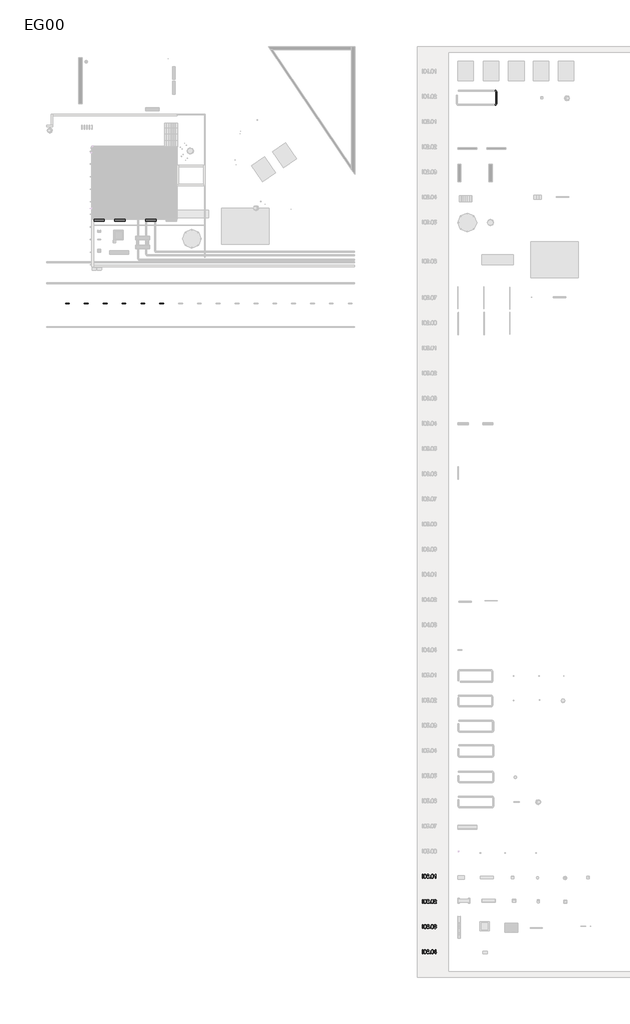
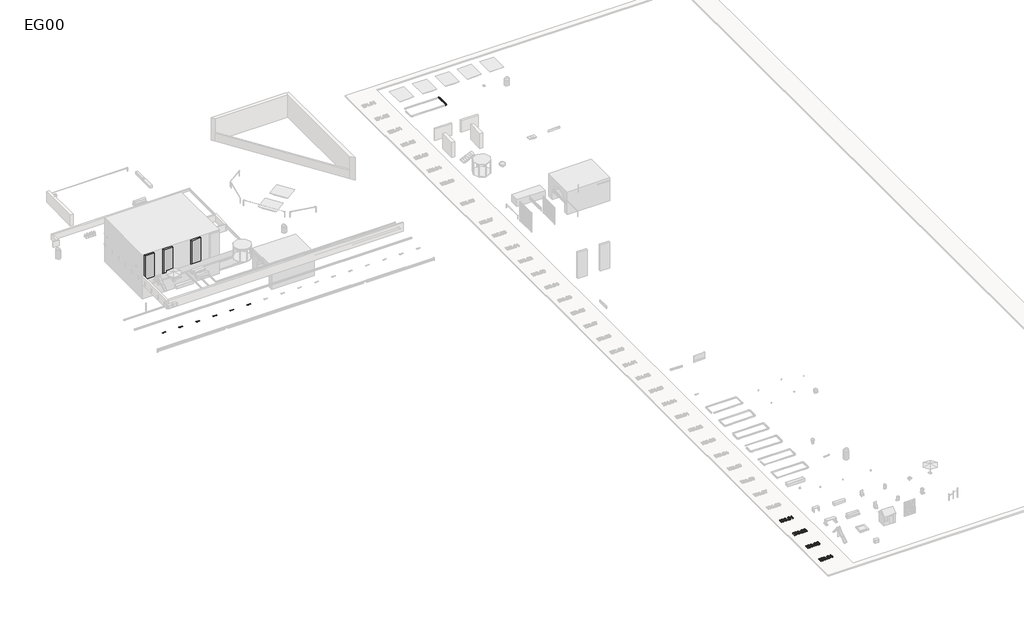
# One storey, part 4 of 11: 10 proxies, 3 geographic elements, 2 pipe fittings, 1 pipe segment.
"""IFC4 building model written with IfcOpenShell, lengths in millimetres."""

from ifc_helpers import new_model, si_unit, point, frame, frame_2d, origin, origin_with_axes, place, context, project, spatial, polyline, circle_curve, trimmed, segment, composite_curve, outline, extrude, transform, mapped, element, save
from components import entourage_9fdb578f, geographic_element_9d9cddf6, bogen_61cc4290

model = new_model("IFC4")

# Units and contexts
model_context = context("Model", 3, world=origin())
ifc_project = project(units=[si_unit("LENGTHUNIT", "METRE", prefix="MILLI")], contexts=[model_context])

# Site, building, storey
site = spatial("IfcSite", under=ifc_project)
building = spatial("IfcBuilding", under=site)
storey = spatial("IfcBuildingStorey", under=building, Name="EG00", Elevation=0.0)

# Proxies
placement = place(None, origin())
entourage_shape = entourage_9fdb578f(model_context)
element("IfcBuildingElementProxy", 1, Name="Bodenmarkierung : Belagsmarkierung", ObjectType="Bodenmarkierung : Belagsmarkierung", at=placement, inside=storey, context=model_context, shape_type="MappedRepresentation", body=[
    mapped(entourage_shape, transform((-15408.7537228, -30730.6172052, -9.0), x_axis=(1.0, 0.0, 0.0), y_axis=(0.0, 1.0, 0.0), z_axis=(0.0, 0.0, 1.0))),
])
element("IfcBuildingElementProxy", 2, Name="Bodenmarkierung : Belagsmarkierung", ObjectType="Bodenmarkierung : Belagsmarkierung", at=placement, inside=storey, context=model_context, shape_type="MappedRepresentation", body=[
    mapped(entourage_shape, transform((-12408.7537228, -30730.6172052, -9.0), x_axis=(1.0, 0.0, 0.0), y_axis=(0.0, 1.0, 0.0), z_axis=(0.0, 0.0, 1.0))),
])
element("IfcBuildingElementProxy", 3, Name="Bodenmarkierung : Belagsmarkierung", ObjectType="Bodenmarkierung : Belagsmarkierung", at=placement, inside=storey, context=model_context, shape_type="MappedRepresentation", body=[
    mapped(entourage_shape, transform((-9408.7537228, -30730.6172052, -9.0), x_axis=(1.0, 0.0, 0.0), y_axis=(0.0, 1.0, 0.0), z_axis=(0.0, 0.0, 1.0))),
])
element("IfcBuildingElementProxy", 4, Name="Bodenmarkierung : Belagsmarkierung", ObjectType="Bodenmarkierung : Belagsmarkierung", at=placement, inside=storey, context=model_context, shape_type="MappedRepresentation", body=[
    mapped(entourage_shape, transform((-6408.7537228, -30730.6172052, -9.0), x_axis=(1.0, 0.0, 0.0), y_axis=(0.0, 1.0, 0.0), z_axis=(0.0, 0.0, 1.0))),
])
element("IfcBuildingElementProxy", 5, Name="Bodenmarkierung : Belagsmarkierung", ObjectType="Bodenmarkierung : Belagsmarkierung", at=placement, inside=storey, context=model_context, shape_type="MappedRepresentation", body=[
    mapped(entourage_shape, transform((-3408.7537228, -30730.6172052, -9.0), x_axis=(1.0, 0.0, 0.0), y_axis=(0.0, 1.0, 0.0), z_axis=(0.0, 0.0, 1.0))),
])
element("IfcBuildingElementProxy", 6, Name="Bodenmarkierung : Belagsmarkierung", ObjectType="Bodenmarkierung : Belagsmarkierung", at=placement, inside=storey, context=model_context, shape_type="MappedRepresentation", body=[
    mapped(entourage_shape, transform((-408.7537228, -30730.6172052, -9.0), x_axis=(1.0, 0.0, 0.0), y_axis=(0.0, 1.0, 0.0), z_axis=(0.0, 0.0, 1.0))),
])
element("IfcBuildingElementProxy", 7, Name="600mm Arial", ObjectType="600mm Arial", at=placement, inside=storey, context=model_context, shape_type="SweptSolid", body=[
    extrude(outline(polyline([(41098.4530284, -122070.0529019), (41098.4530284, -121467.315041), (41173.795261, -121467.315041), (41173.795261, -122070.0529019), (41098.4530284, -122070.0529019)])), origin_with_axes(), (0.0, 0.0, 1.0), 150.0),
    extrude(outline(polyline([(41296.226389, -121773.5400137), (41301.763013, -121677.0629605), (41308.6837931, -121636.1498841), (41318.3728851, -121600.1204412), (41330.7889025, -121568.6803262), (41345.8904584, -121541.5352335), (41363.6775528, -121518.6851631), (41384.1501859, -121500.1301149), (41407.3773353, -121485.7735201), (41433.4279791, -121475.5188095), (41462.3021172, -121469.3659831), (41493.9997496, -121467.315041), (41540.4264574, -121472.1710833), (41581.9971229, -121486.7392103), (41616.7619714, -121510.4492049), (41642.7712285, -121542.73085), (41662.416127, -121583.308234), (41678.0879, -121631.9054456), (41688.3518077, -121693.6176503), (41691.7731102, -121773.5400137), (41686.2916685, -121869.465244), (41679.4398663, -121910.2403646), (41669.8473433, -121946.2238223), (41657.527895, -121977.6777329), (41642.495317, -122004.8642123), (41624.7496092, -122027.7832606), (41604.2907718, -122046.4348778), (41581.0360312, -122060.8880417), (41554.9026139, -122071.2117301), (41525.8905201, -122077.4059432), (41493.9997496, -122079.4706809), (41452.5026606, -122075.8838315), (41415.7144611, -122065.1232831), (41383.6351511, -122047.1890359), (41356.2647306, -122022.0810897), (41329.9979562, -121976.6936485), (41311.2359744, -121920.1409888), (41299.9787854, -121852.4231106), (41296.226389, -121773.5400137)]), holes=[polyline([(41371.5686216, -121773.3928609), (41373.7759136, -121838.8896517), (41380.3977895, -121891.9060457), (41391.4342494, -121932.442043), (41406.8852932, -121960.4976437), (41425.5736985, -121979.5861207), (41446.3222431, -121993.2207472), (41469.1309268, -122001.401523), (41493.9997496, -122004.1284483), (41518.8685725, -122001.392326), (41541.6772562, -121993.183959), (41562.4258007, -121979.5033473), (41581.1142061, -121960.3504909), (41596.5652499, -121932.248905), (41607.6017097, -121891.7221047), (41614.2235857, -121838.77009), (41616.4308776, -121773.3928609), (41614.297162, -121709.6297141), (41607.8960153, -121657.5468207), (41597.2274375, -121617.1441805), (41582.2914285, -121588.4217938), (41563.9157228, -121568.3998162), (41542.928055, -121554.0984036), (41519.328425, -121545.5175561), (41493.1168328, -121542.6572736), (41468.3767687, -121545.1772652), (41445.9543611, -121552.7372402), (41425.84961, -121565.3371986), (41408.0625156, -121582.9771402), (41392.096437, -121614.2471098), (41380.6920951, -121656.4063865), (41373.84949, -121709.4549702), (41371.5686216, -121773.3928609)])]), origin_with_axes(), (0.0, 0.0, 1.0), 150.0),
    extrude(outline(polyline([(42143.8265059, -121627.4172853), (42068.4842733, -121636.8350643), (42056.3441675, -121599.4950418), (42039.9366305, -121574.0008196), (42023.7406256, -121560.2880182), (42005.7603931, -121550.4931601), (41985.9959329, -121544.6162452), (41964.4472451, -121542.6572736), (41929.4248791, -121547.2190103), (41896.4626524, -121560.9042205), (41868.1541328, -121589.7277749), (41845.0327494, -121629.403848), (41835.9966479, -121654.7095308), (41829.4161587, -121685.5242464), (41823.6220173, -121763.6807763), (41853.8435232, -121728.419287), (41890.0615056, -121703.5688583), (41930.2526136, -121688.8351844), (41972.3934962, -121683.9239597), (42008.5930845, -121687.2808829), (42041.9967696, -121697.3516525), (42072.6045516, -121714.1362686), (42100.4164305, -121737.634731), (42123.5286168, -121766.4490883), (42140.0373214, -121799.1813888), (42149.9425441, -121835.8316326), (42153.244285, -121876.3998196), (42151.6899836, -121903.8668091), (42147.0270793, -121930.3497142), (42139.2555721, -121955.848535), (42128.3754621, -121980.3632714), (42114.7730253, -122002.9788171), (42098.8345379, -122022.7800655), (42080.5599998, -122039.7670166), (42059.949411, -122053.9396705), (42037.44423, -122065.1094875), (42013.485915, -122073.0879283), (41988.0744662, -122077.8749928), (41961.2098835, -122079.4706809), (41916.2960904, -122075.240038), (41875.7325019, -122062.5481092), (41839.519118, -122041.3948944), (41807.6559387, -122011.7803938), (41781.6788713, -121972.4538085), (41763.1238232, -121922.1643398), (41751.9907943, -121860.9119876), (41748.2797847, -121788.6967519), (41752.400063, -121707.7351219), (41764.7608981, -121638.6376861), (41785.3622898, -121581.4044447), (41798.7531944, -121557.2368969), (41814.2042382, -121536.0353977), (41845.4650108, -121505.9702416), (41881.7105843, -121484.4951301), (41922.940959, -121471.6100633), (41969.1561346, -121467.315041), (42003.8566038, -121469.9729884), (42035.2645291, -121477.9468306), (42063.3799106, -121491.2365677), (42088.2027482, -121509.8421996), (42109.0616574, -121533.1383269), (42125.2852534, -121560.4995503), (42136.8735362, -121591.9258698), (42143.8265059, -121627.4172853)]), holes=[polyline([(41823.6220173, -121875.2225972), (41827.9814189, -121908.6078883), (41841.0596239, -121940.4848632), (41861.36671, -121967.8920718), (41887.4127553, -121987.8680641), (41918.8482718, -122000.0633523), (41955.3237716, -122004.1284483), (41981.5123711, -122002.0223239), (42005.0430232, -121995.7039506), (42025.9157279, -121985.1733285), (42044.1304852, -121970.4304576), (42058.9055458, -121952.073146), (42069.4591606, -121930.6992021), (42075.7913294, -121906.3086258), (42077.9020524, -121878.9014172), (42075.8189206, -121852.5656648), (42069.5695252, -121829.1821655), (42059.1538662, -121808.7509192), (42044.5719436, -121791.2719259), (42026.302004, -121777.2694175), (42004.822294, -121767.2676257), (41980.1328136, -121761.2665507), (41952.2335628, -121759.2661923), (41926.3944512, -121761.2665507), (41902.5878876, -121767.2676257), (41880.813872, -121777.2694175), (41861.0724044, -121791.2719259), (41844.6878601, -121808.520993), (41832.9846141, -121828.2624605), (41825.9626665, -121850.4963286), (41823.6220173, -121875.2225972)])]), origin_with_axes(), (0.0, 0.0, 1.0), 150.0),
    extrude(outline(polyline([(42256.8398548, -122070.0529019), (42256.8398548, -121994.7106692), (42332.1820874, -121994.7106692), (42332.1820874, -122070.0529019), (42256.8398548, -122070.0529019)])), origin_with_axes(), (0.0, 0.0, 1.0), 150.0),
    extrude(outline(polyline([(42454.6132154, -121773.5400137), (42460.1498395, -121677.0629605), (42467.0706195, -121636.1498841), (42476.7597115, -121600.1204412), (42489.1757289, -121568.6803262), (42504.2772848, -121541.5352335), (42522.0643792, -121518.6851631), (42542.5370123, -121500.1301149), (42565.7641618, -121485.7735201), (42591.8148055, -121475.5188095), (42620.6889436, -121469.3659831), (42652.386576, -121467.315041), (42698.8132838, -121472.1710833), (42740.3839493, -121486.7392103), (42775.1487978, -121510.4492049), (42801.1580549, -121542.73085), (42820.8029534, -121583.308234), (42836.4747264, -121631.9054456), (42846.7386341, -121693.6176503), (42850.1599366, -121773.5400137), (42844.6784949, -121869.465244), (42837.8266928, -121910.2403646), (42828.2341697, -121946.2238223), (42815.9147214, -121977.6777329), (42800.8821434, -122004.8642123), (42783.1364357, -122027.7832606), (42762.6775982, -122046.4348778), (42739.4228576, -122060.8880417), (42713.2894403, -122071.2117301), (42684.2773465, -122077.4059432), (42652.386576, -122079.4706809), (42610.889487, -122075.8838315), (42574.1012875, -122065.1232831), (42542.0219775, -122047.1890359), (42514.651557, -122022.0810897), (42488.3847826, -121976.6936485), (42469.6228008, -121920.1409888), (42458.3656118, -121852.4231106), (42454.6132154, -121773.5400137)]), holes=[polyline([(42529.955448, -121773.3928609), (42532.16274, -121838.8896517), (42538.7846159, -121891.9060457), (42549.8210758, -121932.442043), (42565.2721196, -121960.4976437), (42583.9605249, -121979.5861207), (42604.7090695, -121993.2207472), (42627.5177532, -122001.401523), (42652.386576, -122004.1284483), (42677.2553989, -122001.392326), (42700.0640826, -121993.183959), (42720.8126271, -121979.5033473), (42739.5010325, -121960.3504909), (42754.9520763, -121932.248905), (42765.9885362, -121891.7221047), (42772.6104121, -121838.77009), (42774.817704, -121773.3928609), (42772.6839885, -121709.6297141), (42766.2828417, -121657.5468207), (42755.6142639, -121617.1441805), (42740.6782549, -121588.4217938), (42722.3025492, -121568.3998162), (42701.3148814, -121554.0984036), (42677.7152514, -121545.5175561), (42651.5036593, -121542.6572736), (42626.7635951, -121545.1772652), (42604.3411875, -121552.7372402), (42584.2364364, -121565.3371986), (42566.449342, -121582.9771402), (42550.4832634, -121614.2471098), (42539.0789215, -121656.4063865), (42532.2363164, -121709.4549702), (42529.955448, -121773.3928609)])]), origin_with_axes(), (0.0, 0.0, 1.0), 150.0),
    extrude(outline(polyline([(43198.6177625, -122070.0529019), (43123.2755299, -122070.0529019), (43123.2755299, -121600.3411704), (43091.8216193, -121625.7802104), (43051.9064228, -121651.1824622), (43010.0046636, -121673.3841406), (42972.5910646, -121689.2214605), (42972.5910646, -121617.9995062), (43031.7648836, -121585.8098316), (43083.0292396, -121547.5133159), (43123.4410768, -121506.788779), (43150.0573391, -121467.315041), (43198.6177625, -121467.315041), (43198.6177625, -122070.0529019)])), origin_with_axes(), (0.0, 0.0, 1.0), 150.0),
])
element("IfcBuildingElementProxy", 8, Name="600mm Arial", ObjectType="600mm Arial", at=placement, inside=storey, context=model_context, shape_type="SweptSolid", body=[
    extrude(outline(polyline([(41098.4530284, -126070.0529019), (41098.4530284, -125467.315041), (41173.795261, -125467.315041), (41173.795261, -126070.0529019), (41098.4530284, -126070.0529019)])), origin_with_axes(), (0.0, 0.0, 1.0), 150.0),
    extrude(outline(polyline([(41296.226389, -125773.5400137), (41301.763013, -125677.0629605), (41308.6837931, -125636.1498841), (41318.3728851, -125600.1204412), (41330.7889025, -125568.6803262), (41345.8904584, -125541.5352335), (41363.6775528, -125518.6851631), (41384.1501859, -125500.1301149), (41407.3773353, -125485.7735201), (41433.4279791, -125475.5188095), (41462.3021172, -125469.3659831), (41493.9997496, -125467.315041), (41540.4264574, -125472.1710833), (41581.9971229, -125486.7392103), (41616.7619714, -125510.4492049), (41642.7712285, -125542.73085), (41662.416127, -125583.308234), (41678.0879, -125631.9054456), (41688.3518077, -125693.6176503), (41691.7731102, -125773.5400137), (41686.2916685, -125869.465244), (41679.4398663, -125910.2403646), (41669.8473433, -125946.2238223), (41657.527895, -125977.6777329), (41642.495317, -126004.8642123), (41624.7496092, -126027.7832606), (41604.2907718, -126046.4348778), (41581.0360312, -126060.8880417), (41554.9026139, -126071.2117301), (41525.8905201, -126077.4059432), (41493.9997496, -126079.4706809), (41452.5026606, -126075.8838315), (41415.7144611, -126065.1232831), (41383.6351511, -126047.1890359), (41356.2647306, -126022.0810897), (41329.9979562, -125976.6936485), (41311.2359744, -125920.1409888), (41299.9787854, -125852.4231106), (41296.226389, -125773.5400137)]), holes=[polyline([(41371.5686216, -125773.3928609), (41373.7759136, -125838.8896517), (41380.3977895, -125891.9060457), (41391.4342494, -125932.442043), (41406.8852932, -125960.4976437), (41425.5736985, -125979.5861207), (41446.3222431, -125993.2207472), (41469.1309268, -126001.401523), (41493.9997496, -126004.1284483), (41518.8685725, -126001.392326), (41541.6772562, -125993.183959), (41562.4258007, -125979.5033473), (41581.1142061, -125960.3504909), (41596.5652499, -125932.248905), (41607.6017097, -125891.7221047), (41614.2235857, -125838.77009), (41616.4308776, -125773.3928609), (41614.297162, -125709.6297141), (41607.8960153, -125657.5468207), (41597.2274375, -125617.1441805), (41582.2914285, -125588.4217938), (41563.9157228, -125568.3998162), (41542.928055, -125554.0984036), (41519.328425, -125545.5175561), (41493.1168328, -125542.6572736), (41468.3767687, -125545.1772652), (41445.9543611, -125552.7372402), (41425.84961, -125565.3371986), (41408.0625156, -125582.9771402), (41392.096437, -125614.2471098), (41380.6920951, -125656.4063865), (41373.84949, -125709.4549702), (41371.5686216, -125773.3928609)])]), origin_with_axes(), (0.0, 0.0, 1.0), 150.0),
    extrude(outline(polyline([(42143.8265059, -125627.4172853), (42068.4842733, -125636.8350643), (42056.3441675, -125599.4950418), (42039.9366305, -125574.0008196), (42023.7406256, -125560.2880182), (42005.7603931, -125550.4931601), (41985.9959329, -125544.6162452), (41964.4472451, -125542.6572736), (41929.4248791, -125547.2190103), (41896.4626524, -125560.9042205), (41868.1541328, -125589.7277749), (41845.0327494, -125629.403848), (41835.9966479, -125654.7095308), (41829.4161587, -125685.5242464), (41823.6220173, -125763.6807763), (41853.8435232, -125728.419287), (41890.0615056, -125703.5688583), (41930.2526136, -125688.8351844), (41972.3934962, -125683.9239597), (42008.5930845, -125687.2808829), (42041.9967696, -125697.3516525), (42072.6045516, -125714.1362686), (42100.4164305, -125737.634731), (42123.5286168, -125766.4490883), (42140.0373214, -125799.1813888), (42149.9425441, -125835.8316326), (42153.244285, -125876.3998196), (42151.6899836, -125903.8668091), (42147.0270793, -125930.3497142), (42139.2555721, -125955.848535), (42128.3754621, -125980.3632714), (42114.7730253, -126002.9788171), (42098.8345379, -126022.7800655), (42080.5599998, -126039.7670166), (42059.949411, -126053.9396705), (42037.44423, -126065.1094875), (42013.485915, -126073.0879283), (41988.0744662, -126077.8749928), (41961.2098835, -126079.4706809), (41916.2960904, -126075.240038), (41875.7325019, -126062.5481092), (41839.519118, -126041.3948944), (41807.6559387, -126011.7803938), (41781.6788713, -125972.4538085), (41763.1238232, -125922.1643398), (41751.9907943, -125860.9119876), (41748.2797847, -125788.6967519), (41752.400063, -125707.7351219), (41764.7608981, -125638.6376861), (41785.3622898, -125581.4044447), (41798.7531944, -125557.2368969), (41814.2042382, -125536.0353977), (41845.4650108, -125505.9702416), (41881.7105843, -125484.4951301), (41922.940959, -125471.6100633), (41969.1561346, -125467.315041), (42003.8566038, -125469.9729884), (42035.2645291, -125477.9468306), (42063.3799106, -125491.2365677), (42088.2027482, -125509.8421996), (42109.0616574, -125533.1383269), (42125.2852534, -125560.4995503), (42136.8735362, -125591.9258698), (42143.8265059, -125627.4172853)]), holes=[polyline([(41823.6220173, -125875.2225972), (41827.9814189, -125908.6078883), (41841.0596239, -125940.4848632), (41861.36671, -125967.8920718), (41887.4127553, -125987.8680641), (41918.8482718, -126000.0633523), (41955.3237716, -126004.1284483), (41981.5123711, -126002.0223239), (42005.0430232, -125995.7039506), (42025.9157279, -125985.1733285), (42044.1304852, -125970.4304576), (42058.9055458, -125952.073146), (42069.4591606, -125930.6992021), (42075.7913294, -125906.3086258), (42077.9020524, -125878.9014172), (42075.8189206, -125852.5656648), (42069.5695252, -125829.1821655), (42059.1538662, -125808.7509192), (42044.5719436, -125791.2719259), (42026.302004, -125777.2694175), (42004.822294, -125767.2676257), (41980.1328136, -125761.2665507), (41952.2335628, -125759.2661923), (41926.3944512, -125761.2665507), (41902.5878876, -125767.2676257), (41880.813872, -125777.2694175), (41861.0724044, -125791.2719259), (41844.6878601, -125808.520993), (41832.9846141, -125828.2624605), (41825.9626665, -125850.4963286), (41823.6220173, -125875.2225972)])]), origin_with_axes(), (0.0, 0.0, 1.0), 150.0),
    extrude(outline(polyline([(42256.8398548, -126070.0529019), (42256.8398548, -125994.7106692), (42332.1820874, -125994.7106692), (42332.1820874, -126070.0529019), (42256.8398548, -126070.0529019)])), origin_with_axes(), (0.0, 0.0, 1.0), 150.0),
    extrude(outline(polyline([(42454.6132154, -125773.5400137), (42460.1498395, -125677.0629605), (42467.0706195, -125636.1498841), (42476.7597115, -125600.1204412), (42489.1757289, -125568.6803262), (42504.2772848, -125541.5352335), (42522.0643792, -125518.6851631), (42542.5370123, -125500.1301149), (42565.7641618, -125485.7735201), (42591.8148055, -125475.5188095), (42620.6889436, -125469.3659831), (42652.386576, -125467.315041), (42698.8132838, -125472.1710833), (42740.3839493, -125486.7392103), (42775.1487978, -125510.4492049), (42801.1580549, -125542.73085), (42820.8029534, -125583.308234), (42836.4747264, -125631.9054456), (42846.7386341, -125693.6176503), (42850.1599366, -125773.5400137), (42844.6784949, -125869.465244), (42837.8266928, -125910.2403646), (42828.2341697, -125946.2238223), (42815.9147214, -125977.6777329), (42800.8821434, -126004.8642123), (42783.1364357, -126027.7832606), (42762.6775982, -126046.4348778), (42739.4228576, -126060.8880417), (42713.2894403, -126071.2117301), (42684.2773465, -126077.4059432), (42652.386576, -126079.4706809), (42610.889487, -126075.8838315), (42574.1012875, -126065.1232831), (42542.0219775, -126047.1890359), (42514.651557, -126022.0810897), (42488.3847826, -125976.6936485), (42469.6228008, -125920.1409888), (42458.3656118, -125852.4231106), (42454.6132154, -125773.5400137)]), holes=[polyline([(42529.955448, -125773.3928609), (42532.16274, -125838.8896517), (42538.7846159, -125891.9060457), (42549.8210758, -125932.442043), (42565.2721196, -125960.4976437), (42583.9605249, -125979.5861207), (42604.7090695, -125993.2207472), (42627.5177532, -126001.401523), (42652.386576, -126004.1284483), (42677.2553989, -126001.392326), (42700.0640826, -125993.183959), (42720.8126271, -125979.5033473), (42739.5010325, -125960.3504909), (42754.9520763, -125932.248905), (42765.9885362, -125891.7221047), (42772.6104121, -125838.77009), (42774.817704, -125773.3928609), (42772.6839885, -125709.6297141), (42766.2828417, -125657.5468207), (42755.6142639, -125617.1441805), (42740.6782549, -125588.4217938), (42722.3025492, -125568.3998162), (42701.3148814, -125554.0984036), (42677.7152514, -125545.5175561), (42651.5036593, -125542.6572736), (42626.7635951, -125545.1772652), (42604.3411875, -125552.7372402), (42584.2364364, -125565.3371986), (42566.449342, -125582.9771402), (42550.4832634, -125614.2471098), (42539.0789215, -125656.4063865), (42532.2363164, -125709.4549702), (42529.955448, -125773.3928609)])]), origin_with_axes(), (0.0, 0.0, 1.0), 150.0),
    extrude(outline(polyline([(43302.2133323, -125994.7106692), (43302.2133323, -126070.0529019), (42906.6666111, -126070.0529019), (42908.3220801, -126043.52861), (42914.760015, -126018.1079641), (42933.3380558, -125977.512186), (42960.5245352, -125938.1304184), (42999.8511205, -125896.9092408), (43054.8494788, -125850.7952327), (43136.1513997, -125778.5799971), (43184.9325523, -125725.273896), (43199.1603884, -125703.4952819), (43209.3231285, -125682.0109733), (43215.4207726, -125660.8209704), (43217.4533206, -125639.9252731), (43215.5357357, -125620.266579), (43209.782981, -125602.1989745), (43200.1950565, -125585.7224596), (43186.7719622, -125570.8370344), (43170.2586592, -125558.508389), (43151.4001084, -125549.7022138), (43130.1963099, -125544.4185086), (43106.6472637, -125542.6572736), (43081.8382216, -125544.3771219), (43059.6503388, -125549.5366669), (43040.0836152, -125558.1359085), (43023.1380508, -125570.1748468), (43009.4298479, -125585.2488116), (42999.575209, -125602.9531326), (42993.5741339, -125623.2878099), (42991.4266228, -125646.2528434), (42916.0843902, -125636.8350643), (42922.5637118, -125597.9407404), (42934.3497312, -125563.9576411), (42951.4424484, -125534.8857664), (42973.8418634, -125510.7251164), (43001.0329414, -125491.7332084), (43032.5006476, -125478.1675598), (43068.2449819, -125470.0281707), (43108.2659445, -125467.315041), (43148.645592, -125470.3316733), (43184.5830644, -125479.3815704), (43216.0783617, -125494.4647322), (43243.1314839, -125515.5811587), (43264.8595142, -125541.1673515), (43280.3795359, -125569.659812), (43289.6915489, -125601.0585403), (43292.7955532, -125635.3635364), (43289.4478271, -125671.3975778), (43279.4046486, -125706.8062198), (43261.580766, -125742.8218672), (43234.8909272, -125780.6769245), (43192.3453745, -125825.8712276), (43126.9543498, -125883.9046123), (43040.2813518, -125956.3773654), (43006.2890554, -125994.7106692), (43302.2133323, -125994.7106692)])), origin_with_axes(), (0.0, 0.0, 1.0), 150.0),
])
element("IfcBuildingElementProxy", 9, Name="600mm Arial", ObjectType="600mm Arial", at=placement, inside=storey, context=model_context, shape_type="SweptSolid", body=[
    extrude(outline(polyline([(41098.4530284, -130070.0529019), (41098.4530284, -129467.315041), (41173.795261, -129467.315041), (41173.795261, -130070.0529019), (41098.4530284, -130070.0529019)])), origin_with_axes(), (0.0, 0.0, 1.0), 150.0),
    extrude(outline(polyline([(41296.226389, -129773.5400137), (41301.763013, -129677.0629605), (41308.6837931, -129636.1498841), (41318.3728851, -129600.1204412), (41330.7889025, -129568.6803262), (41345.8904584, -129541.5352335), (41363.6775528, -129518.6851631), (41384.1501859, -129500.1301149), (41407.3773353, -129485.7735201), (41433.4279791, -129475.5188095), (41462.3021172, -129469.3659831), (41493.9997496, -129467.315041), (41540.4264574, -129472.1710833), (41581.9971229, -129486.7392103), (41616.7619714, -129510.4492049), (41642.7712285, -129542.73085), (41662.416127, -129583.308234), (41678.0879, -129631.9054456), (41688.3518077, -129693.6176503), (41691.7731102, -129773.5400137), (41686.2916685, -129869.465244), (41679.4398663, -129910.2403646), (41669.8473433, -129946.2238223), (41657.527895, -129977.6777329), (41642.495317, -130004.8642123), (41624.7496092, -130027.7832606), (41604.2907718, -130046.4348778), (41581.0360312, -130060.8880417), (41554.9026139, -130071.2117301), (41525.8905201, -130077.4059432), (41493.9997496, -130079.4706809), (41452.5026606, -130075.8838315), (41415.7144611, -130065.1232831), (41383.6351511, -130047.1890359), (41356.2647306, -130022.0810897), (41329.9979562, -129976.6936485), (41311.2359744, -129920.1409888), (41299.9787854, -129852.4231106), (41296.226389, -129773.5400137)]), holes=[polyline([(41371.5686216, -129773.3928609), (41373.7759136, -129838.8896517), (41380.3977895, -129891.9060457), (41391.4342494, -129932.442043), (41406.8852932, -129960.4976437), (41425.5736985, -129979.5861207), (41446.3222431, -129993.2207472), (41469.1309268, -130001.401523), (41493.9997496, -130004.1284483), (41518.8685725, -130001.392326), (41541.6772562, -129993.183959), (41562.4258007, -129979.5033473), (41581.1142061, -129960.3504909), (41596.5652499, -129932.248905), (41607.6017097, -129891.7221047), (41614.2235857, -129838.77009), (41616.4308776, -129773.3928609), (41614.297162, -129709.6297141), (41607.8960153, -129657.5468207), (41597.2274375, -129617.1441805), (41582.2914285, -129588.4217938), (41563.9157228, -129568.3998162), (41542.928055, -129554.0984036), (41519.328425, -129545.5175561), (41493.1168328, -129542.6572736), (41468.3767687, -129545.1772652), (41445.9543611, -129552.7372402), (41425.84961, -129565.3371986), (41408.0625156, -129582.9771402), (41392.096437, -129614.2471098), (41380.6920951, -129656.4063865), (41373.84949, -129709.4549702), (41371.5686216, -129773.3928609)])]), origin_with_axes(), (0.0, 0.0, 1.0), 150.0),
    extrude(outline(polyline([(42143.8265059, -129627.4172853), (42068.4842733, -129636.8350643), (42056.3441675, -129599.4950418), (42039.9366305, -129574.0008196), (42023.7406256, -129560.2880182), (42005.7603931, -129550.4931601), (41985.9959329, -129544.6162452), (41964.4472451, -129542.6572736), (41929.4248791, -129547.2190103), (41896.4626524, -129560.9042205), (41868.1541328, -129589.7277749), (41845.0327494, -129629.403848), (41835.9966479, -129654.7095308), (41829.4161587, -129685.5242464), (41823.6220173, -129763.6807763), (41853.8435232, -129728.419287), (41890.0615056, -129703.5688583), (41930.2526136, -129688.8351844), (41972.3934962, -129683.9239597), (42008.5930845, -129687.2808829), (42041.9967696, -129697.3516525), (42072.6045516, -129714.1362686), (42100.4164305, -129737.634731), (42123.5286168, -129766.4490883), (42140.0373214, -129799.1813888), (42149.9425441, -129835.8316326), (42153.244285, -129876.3998196), (42151.6899836, -129903.8668091), (42147.0270793, -129930.3497142), (42139.2555721, -129955.848535), (42128.3754621, -129980.3632714), (42114.7730253, -130002.9788171), (42098.8345379, -130022.7800655), (42080.5599998, -130039.7670166), (42059.949411, -130053.9396705), (42037.44423, -130065.1094875), (42013.485915, -130073.0879283), (41988.0744662, -130077.8749928), (41961.2098835, -130079.4706809), (41916.2960904, -130075.240038), (41875.7325019, -130062.5481092), (41839.519118, -130041.3948944), (41807.6559387, -130011.7803938), (41781.6788713, -129972.4538085), (41763.1238232, -129922.1643398), (41751.9907943, -129860.9119876), (41748.2797847, -129788.6967519), (41752.400063, -129707.7351219), (41764.7608981, -129638.6376861), (41785.3622898, -129581.4044447), (41798.7531944, -129557.2368969), (41814.2042382, -129536.0353977), (41845.4650108, -129505.9702416), (41881.7105843, -129484.4951301), (41922.940959, -129471.6100633), (41969.1561346, -129467.315041), (42003.8566038, -129469.9729884), (42035.2645291, -129477.9468306), (42063.3799106, -129491.2365677), (42088.2027482, -129509.8421996), (42109.0616574, -129533.1383269), (42125.2852534, -129560.4995503), (42136.8735362, -129591.9258698), (42143.8265059, -129627.4172853)]), holes=[polyline([(41823.6220173, -129875.2225972), (41827.9814189, -129908.6078883), (41841.0596239, -129940.4848632), (41861.36671, -129967.8920718), (41887.4127553, -129987.8680641), (41918.8482718, -130000.0633523), (41955.3237716, -130004.1284483), (41981.5123711, -130002.0223239), (42005.0430232, -129995.7039506), (42025.9157279, -129985.1733285), (42044.1304852, -129970.4304576), (42058.9055458, -129952.073146), (42069.4591606, -129930.6992021), (42075.7913294, -129906.3086258), (42077.9020524, -129878.9014172), (42075.8189206, -129852.5656648), (42069.5695252, -129829.1821655), (42059.1538662, -129808.7509192), (42044.5719436, -129791.2719259), (42026.302004, -129777.2694175), (42004.822294, -129767.2676257), (41980.1328136, -129761.2665507), (41952.2335628, -129759.2661923), (41926.3944512, -129761.2665507), (41902.5878876, -129767.2676257), (41880.813872, -129777.2694175), (41861.0724044, -129791.2719259), (41844.6878601, -129808.520993), (41832.9846141, -129828.2624605), (41825.9626665, -129850.4963286), (41823.6220173, -129875.2225972)])]), origin_with_axes(), (0.0, 0.0, 1.0), 150.0),
    extrude(outline(polyline([(42256.8398548, -130070.0529019), (42256.8398548, -129994.7106692), (42332.1820874, -129994.7106692), (42332.1820874, -130070.0529019), (42256.8398548, -130070.0529019)])), origin_with_axes(), (0.0, 0.0, 1.0), 150.0),
    extrude(outline(polyline([(42454.6132154, -129773.5400137), (42460.1498395, -129677.0629605), (42467.0706195, -129636.1498841), (42476.7597115, -129600.1204412), (42489.1757289, -129568.6803262), (42504.2772848, -129541.5352335), (42522.0643792, -129518.6851631), (42542.5370123, -129500.1301149), (42565.7641618, -129485.7735201), (42591.8148055, -129475.5188095), (42620.6889436, -129469.3659831), (42652.386576, -129467.315041), (42698.8132838, -129472.1710833), (42740.3839493, -129486.7392103), (42775.1487978, -129510.4492049), (42801.1580549, -129542.73085), (42820.8029534, -129583.308234), (42836.4747264, -129631.9054456), (42846.7386341, -129693.6176503), (42850.1599366, -129773.5400137), (42844.6784949, -129869.465244), (42837.8266928, -129910.2403646), (42828.2341697, -129946.2238223), (42815.9147214, -129977.6777329), (42800.8821434, -130004.8642123), (42783.1364357, -130027.7832606), (42762.6775982, -130046.4348778), (42739.4228576, -130060.8880417), (42713.2894403, -130071.2117301), (42684.2773465, -130077.4059432), (42652.386576, -130079.4706809), (42610.889487, -130075.8838315), (42574.1012875, -130065.1232831), (42542.0219775, -130047.1890359), (42514.651557, -130022.0810897), (42488.3847826, -129976.6936485), (42469.6228008, -129920.1409888), (42458.3656118, -129852.4231106), (42454.6132154, -129773.5400137)]), holes=[polyline([(42529.955448, -129773.3928609), (42532.16274, -129838.8896517), (42538.7846159, -129891.9060457), (42549.8210758, -129932.442043), (42565.2721196, -129960.4976437), (42583.9605249, -129979.5861207), (42604.7090695, -129993.2207472), (42627.5177532, -130001.401523), (42652.386576, -130004.1284483), (42677.2553989, -130001.392326), (42700.0640826, -129993.183959), (42720.8126271, -129979.5033473), (42739.5010325, -129960.3504909), (42754.9520763, -129932.248905), (42765.9885362, -129891.7221047), (42772.6104121, -129838.77009), (42774.817704, -129773.3928609), (42772.6839885, -129709.6297141), (42766.2828417, -129657.5468207), (42755.6142639, -129617.1441805), (42740.6782549, -129588.4217938), (42722.3025492, -129568.3998162), (42701.3148814, -129554.0984036), (42677.7152514, -129545.5175561), (42651.5036593, -129542.6572736), (42626.7635951, -129545.1772652), (42604.3411875, -129552.7372402), (42584.2364364, -129565.3371986), (42566.449342, -129582.9771402), (42550.4832634, -129614.2471098), (42539.0789215, -129656.4063865), (42532.2363164, -129709.4549702), (42529.955448, -129773.3928609)])]), origin_with_axes(), (0.0, 0.0, 1.0), 150.0),
    extrude(outline(polyline([(42916.0843902, -129909.9506576), (42991.4266228, -129900.5328785), (43008.2940123, -129947.8792913), (43019.6661644, -129965.7859474), (43032.9972882, -129979.8482366), (43048.5908863, -129990.4708293), (43066.7504613, -129998.0583954), (43087.4760132, -130002.6109351), (43110.767542, -130004.1284483), (43138.0643861, -130002.040718), (43162.4181742, -129995.777527), (43183.8289063, -129985.3388754), (43202.2965824, -129970.7247632), (43217.1682121, -129953.0296392), (43227.7908047, -129933.3479525), (43234.1643603, -129911.6797029), (43236.2888788, -129888.0248906), (43234.1827544, -129865.496717), (43227.8643811, -129845.0010913), (43217.333759, -129826.5380137), (43202.590888, -129810.1074841), (43184.6014585, -129796.6200104), (43164.3311605, -129786.9861007), (43141.7799942, -129781.2057548), (43116.9479595, -129779.2789729), (43093.1459945, -129781.339112), (43064.120105, -129787.5195296), (43072.5078145, -129712.177297), (43084.574344, -129713.0602137), (43129.7134648, -129707.6523484), (43170.0701197, -129691.4287524), (43186.6799917, -129679.1598879), (43198.5441861, -129663.9847556), (43205.6627027, -129645.9033555), (43208.0355416, -129624.9156877), (43206.3156932, -129607.8781528), (43201.1561482, -129592.3765252), (43192.5569066, -129578.410805), (43180.5179683, -129565.9809921), (43165.7659003, -129555.7768652), (43149.0272695, -129548.4882032), (43109.5903196, -129542.6572736), (43088.9337456, -129544.1288016), (43070.0797934, -129548.5433855), (43053.0284629, -129555.9010254), (43037.7797542, -129566.2017213), (43024.7107463, -129579.4454731), (43014.1985183, -129595.6322809), (43006.2430702, -129614.7621446), (43000.8444019, -129636.8350643), (42925.5021693, -129627.4172853), (42934.4325047, -129591.4476232), (42947.6854536, -129559.7637864), (42965.2610159, -129532.3657748), (42987.1591917, -129509.2535884), (43012.6902021, -129490.9054739), (43041.1642685, -129477.7996778), (43072.5813909, -129469.9362002), (43106.9415693, -129467.315041), (43154.3063762, -129472.483783), (43197.8084221, -129487.9900091), (43234.486257, -129512.4541618), (43261.3784309, -129544.4966836), (43277.8779383, -129581.4136418), (43283.3777742, -129620.5011038), (43278.1538498, -129656.9214213), (43262.4820768, -129689.9572244), (43236.5831844, -129718.1001971), (43200.6779017, -129739.842023), (43225.7858478, -129747.6963036), (43247.8403734, -129758.8983103), (43266.8414785, -129773.4480432), (43282.789163, -129791.3455023), (43295.4075154, -129812.1492291), (43304.4206243, -129835.4177653), (43309.8284896, -129861.1511109), (43311.6311114, -129889.3492658), (43308.0258678, -129927.5722051), (43297.2101372, -129962.7785121), (43279.1839194, -129994.9681866), (43253.9472146, -130024.1412289), (43223.2014768, -130048.3478641), (43188.6481604, -130065.6383179), (43150.2872654, -130076.0125902), (43108.1187917, -130079.4706809), (43070.006217, -130076.5184279), (43035.2781566, -130067.6616689), (43003.9346106, -130052.9004038), (42975.975579, -130032.2346328), (42952.5322989, -130006.8783662), (42934.7360073, -129978.0456149), (42922.5867044, -129945.7363786), (42916.0843902, -129909.9506576)])), origin_with_axes(), (0.0, 0.0, 1.0), 150.0),
])
element("IfcBuildingElementProxy", 10, Name="600mm Arial", ObjectType="600mm Arial", at=placement, inside=storey, context=model_context, shape_type="SweptSolid", body=[
    extrude(outline(polyline([(41098.4530284, -134070.0529019), (41098.4530284, -133467.315041), (41173.795261, -133467.315041), (41173.795261, -134070.0529019), (41098.4530284, -134070.0529019)])), origin_with_axes(), (0.0, 0.0, 1.0), 150.0),
    extrude(outline(polyline([(41296.226389, -133773.5400137), (41301.763013, -133677.0629605), (41308.6837931, -133636.1498841), (41318.3728851, -133600.1204412), (41330.7889025, -133568.6803262), (41345.8904584, -133541.5352335), (41363.6775528, -133518.6851631), (41384.1501859, -133500.1301149), (41407.3773353, -133485.7735201), (41433.4279791, -133475.5188095), (41462.3021172, -133469.3659831), (41493.9997496, -133467.315041), (41540.4264574, -133472.1710833), (41581.9971229, -133486.7392103), (41616.7619714, -133510.4492049), (41642.7712285, -133542.73085), (41662.416127, -133583.308234), (41678.0879, -133631.9054456), (41688.3518077, -133693.6176503), (41691.7731102, -133773.5400137), (41686.2916685, -133869.465244), (41679.4398663, -133910.2403646), (41669.8473433, -133946.2238223), (41657.527895, -133977.6777329), (41642.495317, -134004.8642123), (41624.7496092, -134027.7832606), (41604.2907718, -134046.4348778), (41581.0360312, -134060.8880417), (41554.9026139, -134071.2117301), (41525.8905201, -134077.4059432), (41493.9997496, -134079.4706809), (41452.5026606, -134075.8838315), (41415.7144611, -134065.1232831), (41383.6351511, -134047.1890359), (41356.2647306, -134022.0810897), (41329.9979562, -133976.6936485), (41311.2359744, -133920.1409888), (41299.9787854, -133852.4231106), (41296.226389, -133773.5400137)]), holes=[polyline([(41371.5686216, -133773.3928609), (41373.7759136, -133838.8896517), (41380.3977895, -133891.9060457), (41391.4342494, -133932.442043), (41406.8852932, -133960.4976437), (41425.5736985, -133979.5861207), (41446.3222431, -133993.2207472), (41469.1309268, -134001.401523), (41493.9997496, -134004.1284483), (41518.8685725, -134001.392326), (41541.6772562, -133993.183959), (41562.4258007, -133979.5033473), (41581.1142061, -133960.3504909), (41596.5652499, -133932.248905), (41607.6017097, -133891.7221047), (41614.2235857, -133838.77009), (41616.4308776, -133773.3928609), (41614.297162, -133709.6297141), (41607.8960153, -133657.5468207), (41597.2274375, -133617.1441805), (41582.2914285, -133588.4217938), (41563.9157228, -133568.3998162), (41542.928055, -133554.0984036), (41519.328425, -133545.5175561), (41493.1168328, -133542.6572736), (41468.3767687, -133545.1772652), (41445.9543611, -133552.7372402), (41425.84961, -133565.3371986), (41408.0625156, -133582.9771402), (41392.096437, -133614.2471098), (41380.6920951, -133656.4063865), (41373.84949, -133709.4549702), (41371.5686216, -133773.3928609)])]), origin_with_axes(), (0.0, 0.0, 1.0), 150.0),
    extrude(outline(polyline([(42143.8265059, -133627.4172853), (42068.4842733, -133636.8350643), (42056.3441675, -133599.4950418), (42039.9366305, -133574.0008196), (42023.7406256, -133560.2880182), (42005.7603931, -133550.4931601), (41985.9959329, -133544.6162452), (41964.4472451, -133542.6572736), (41929.4248791, -133547.2190103), (41896.4626524, -133560.9042205), (41868.1541328, -133589.7277749), (41845.0327494, -133629.403848), (41835.9966479, -133654.7095308), (41829.4161587, -133685.5242464), (41823.6220173, -133763.6807763), (41853.8435232, -133728.419287), (41890.0615056, -133703.5688583), (41930.2526136, -133688.8351844), (41972.3934962, -133683.9239597), (42008.5930845, -133687.2808829), (42041.9967696, -133697.3516525), (42072.6045516, -133714.1362686), (42100.4164305, -133737.634731), (42123.5286168, -133766.4490883), (42140.0373214, -133799.1813888), (42149.9425441, -133835.8316326), (42153.244285, -133876.3998196), (42151.6899836, -133903.8668091), (42147.0270793, -133930.3497142), (42139.2555721, -133955.848535), (42128.3754621, -133980.3632714), (42114.7730253, -134002.9788171), (42098.8345379, -134022.7800655), (42080.5599998, -134039.7670166), (42059.949411, -134053.9396705), (42037.44423, -134065.1094875), (42013.485915, -134073.0879283), (41988.0744662, -134077.8749928), (41961.2098835, -134079.4706809), (41916.2960904, -134075.240038), (41875.7325019, -134062.5481092), (41839.519118, -134041.3948944), (41807.6559387, -134011.7803938), (41781.6788713, -133972.4538085), (41763.1238232, -133922.1643398), (41751.9907943, -133860.9119876), (41748.2797847, -133788.6967519), (41752.400063, -133707.7351219), (41764.7608981, -133638.6376861), (41785.3622898, -133581.4044447), (41798.7531944, -133557.2368969), (41814.2042382, -133536.0353977), (41845.4650108, -133505.9702416), (41881.7105843, -133484.4951301), (41922.940959, -133471.6100633), (41969.1561346, -133467.315041), (42003.8566038, -133469.9729884), (42035.2645291, -133477.9468306), (42063.3799106, -133491.2365677), (42088.2027482, -133509.8421996), (42109.0616574, -133533.1383269), (42125.2852534, -133560.4995503), (42136.8735362, -133591.9258698), (42143.8265059, -133627.4172853)]), holes=[polyline([(41823.6220173, -133875.2225972), (41827.9814189, -133908.6078883), (41841.0596239, -133940.4848632), (41861.36671, -133967.8920718), (41887.4127553, -133987.8680641), (41918.8482718, -134000.0633523), (41955.3237716, -134004.1284483), (41981.5123711, -134002.0223239), (42005.0430232, -133995.7039506), (42025.9157279, -133985.1733285), (42044.1304852, -133970.4304576), (42058.9055458, -133952.073146), (42069.4591606, -133930.6992021), (42075.7913294, -133906.3086258), (42077.9020524, -133878.9014172), (42075.8189206, -133852.5656648), (42069.5695252, -133829.1821655), (42059.1538662, -133808.7509192), (42044.5719436, -133791.2719259), (42026.302004, -133777.2694175), (42004.822294, -133767.2676257), (41980.1328136, -133761.2665507), (41952.2335628, -133759.2661923), (41926.3944512, -133761.2665507), (41902.5878876, -133767.2676257), (41880.813872, -133777.2694175), (41861.0724044, -133791.2719259), (41844.6878601, -133808.520993), (41832.9846141, -133828.2624605), (41825.9626665, -133850.4963286), (41823.6220173, -133875.2225972)])]), origin_with_axes(), (0.0, 0.0, 1.0), 150.0),
    extrude(outline(polyline([(42256.8398548, -134070.0529019), (42256.8398548, -133994.7106692), (42332.1820874, -133994.7106692), (42332.1820874, -134070.0529019), (42256.8398548, -134070.0529019)])), origin_with_axes(), (0.0, 0.0, 1.0), 150.0),
    extrude(outline(polyline([(42454.6132154, -133773.5400137), (42460.1498395, -133677.0629605), (42467.0706195, -133636.1498841), (42476.7597115, -133600.1204412), (42489.1757289, -133568.6803262), (42504.2772848, -133541.5352335), (42522.0643792, -133518.6851631), (42542.5370123, -133500.1301149), (42565.7641618, -133485.7735201), (42591.8148055, -133475.5188095), (42620.6889436, -133469.3659831), (42652.386576, -133467.315041), (42698.8132838, -133472.1710833), (42740.3839493, -133486.7392103), (42775.1487978, -133510.4492049), (42801.1580549, -133542.73085), (42820.8029534, -133583.308234), (42836.4747264, -133631.9054456), (42846.7386341, -133693.6176503), (42850.1599366, -133773.5400137), (42844.6784949, -133869.465244), (42837.8266928, -133910.2403646), (42828.2341697, -133946.2238223), (42815.9147214, -133977.6777329), (42800.8821434, -134004.8642123), (42783.1364357, -134027.7832606), (42762.6775982, -134046.4348778), (42739.4228576, -134060.8880417), (42713.2894403, -134071.2117301), (42684.2773465, -134077.4059432), (42652.386576, -134079.4706809), (42610.889487, -134075.8838315), (42574.1012875, -134065.1232831), (42542.0219775, -134047.1890359), (42514.651557, -134022.0810897), (42488.3847826, -133976.6936485), (42469.6228008, -133920.1409888), (42458.3656118, -133852.4231106), (42454.6132154, -133773.5400137)]), holes=[polyline([(42529.955448, -133773.3928609), (42532.16274, -133838.8896517), (42538.7846159, -133891.9060457), (42549.8210758, -133932.442043), (42565.2721196, -133960.4976437), (42583.9605249, -133979.5861207), (42604.7090695, -133993.2207472), (42627.5177532, -134001.401523), (42652.386576, -134004.1284483), (42677.2553989, -134001.392326), (42700.0640826, -133993.183959), (42720.8126271, -133979.5033473), (42739.5010325, -133960.3504909), (42754.9520763, -133932.248905), (42765.9885362, -133891.7221047), (42772.6104121, -133838.77009), (42774.817704, -133773.3928609), (42772.6839885, -133709.6297141), (42766.2828417, -133657.5468207), (42755.6142639, -133617.1441805), (42740.6782549, -133588.4217938), (42722.3025492, -133568.3998162), (42701.3148814, -133554.0984036), (42677.7152514, -133545.5175561), (42651.5036593, -133542.6572736), (42626.7635951, -133545.1772652), (42604.3411875, -133552.7372402), (42584.2364364, -133565.3371986), (42566.449342, -133582.9771402), (42550.4832634, -133614.2471098), (42539.0789215, -133656.4063865), (42532.2363164, -133709.4549702), (42529.955448, -133773.3928609)])]), origin_with_axes(), (0.0, 0.0, 1.0), 150.0),
    extrude(outline(polyline([(43160.9466462, -134070.0529019), (43160.9466462, -133928.7862157), (42887.831053, -133928.7862157), (42887.831053, -133853.4439831), (43179.7822043, -133476.73282), (43236.2888788, -133476.73282), (43236.2888788, -133853.4439831), (43311.6311114, -133853.4439831), (43311.6311114, -133928.7862157), (43236.2888788, -133928.7862157), (43236.2888788, -134070.0529019), (43160.9466462, -134070.0529019)]), holes=[polyline([(43160.9466462, -133853.4439831), (43160.9466462, -133620.6482566), (42980.5373157, -133853.4439831), (43160.9466462, -133853.4439831)])]), origin_with_axes(), (0.0, 0.0, 1.0), 150.0),
])

# Geographic elements
geographic_element_shape = geographic_element_9d9cddf6(model_context)
element("IfcGeographicElement", 11, ObjectType="Begrünung systemgestützt : Begrünung systemgestützt", at=placement, inside=storey, context=model_context, shape_type="MappedRepresentation", body=[
    mapped(geographic_element_shape, transform((-7073.0126135, -17353.1176535, 0.0), x_axis=(1.0, 0.0, 0.0), y_axis=(0.0, 1.0, 0.0), z_axis=(0.0, 0.0, 1.0))),
])
element("IfcGeographicElement", 12, ObjectType="Begrünung systemgestützt : Begrünung systemgestützt", at=placement, inside=storey, context=model_context, shape_type="MappedRepresentation", body=[
    mapped(geographic_element_shape, transform((-2147.4965306, -17353.1176535, 0.0), x_axis=(1.0, 0.0, 0.0), y_axis=(0.0, 1.0, 0.0), z_axis=(0.0, 0.0, 1.0))),
])
element("IfcGeographicElement", 13, ObjectType="Begrünung frei kletternd : Begrünung frei kletternd", at=placement, inside=storey, context=model_context, shape_type="MappedRepresentation", body=[
    mapped(geographic_element_shape, transform((-10356.6900021, -17353.1176535, 0.0), x_axis=(1.0, 0.0, 0.0), y_axis=(0.0, 1.0, 0.0), z_axis=(0.0, 0.0, 1.0))),
])

# Pipe fittings
bogen_shape = bogen_61cc4290(model_context)
element("IfcPipeFitting", 14, ObjectType="Bogen : Formstück", at=placement, inside=storey, context=model_context, shape_type="MappedRepresentation", body=[
    mapped(bogen_shape, transform((52834.8230387, 3095.7579927, -450.0), x_axis=(1.0, 0.0, 0.0), y_axis=(0.0, 1.0, 0.0), z_axis=(0.0, 0.0, 1.0))),
])
element("IfcPipeFitting", 15, ObjectType="Bogen : Formstück", at=placement, inside=storey, context=model_context, shape_type="MappedRepresentation", body=[
    mapped(bogen_shape, transform((52834.8230387, 891.7579927, -450.0), x_axis=(0.0, -1.0, 0.0), y_axis=(1.0, 0.0, 0.0), z_axis=(0.0, 0.0, 1.0))),
])

# Pipe segment
element("IfcPipeSegment", 16, ObjectType="Rohr", at=placement, inside=storey, context=model_context, shape_type="SweptSolid", body=[
    extrude(outline(composite_curve([segment(trimmed(circle_curve(frame_2d((-450.0, 52834.8230387)), 80.0), [point((-450.0, 52754.8230387))], [point((-530.0, 52834.8230387))], False, "CARTESIAN"), True, "CONTINUOUS"), segment(trimmed(circle_curve(frame_2d((-450.0, 52834.8230387)), 80.0), [point((-530.0, 52834.8230387))], [point((-450.0, 52914.8230387))], False, "CARTESIAN"), True, "CONTINUOUS"), segment(trimmed(circle_curve(frame_2d((-450.0, 52834.8230387)), 80.0), [point((-450.0, 52914.8230387))], [point((-370.0, 52834.8230387))], False, "CARTESIAN"), True, "CONTINUOUS"), segment(trimmed(circle_curve(frame_2d((-450.0, 52834.8230387)), 80.0), [point((-370.0, 52834.8230387))], [point((-450.0, 52754.8230387))], False, "CARTESIAN"), True, "CONTINUOUS")], self_intersect=False)), frame((0.0, 1043.7579927, 0.0), z_axis=(0.0, 1.0, 0.0), x_axis=(0.0, 0.0, 1.0)), (0.0, 0.0, 1.0), 1900.0),
])

save(model, "model.ifc")
